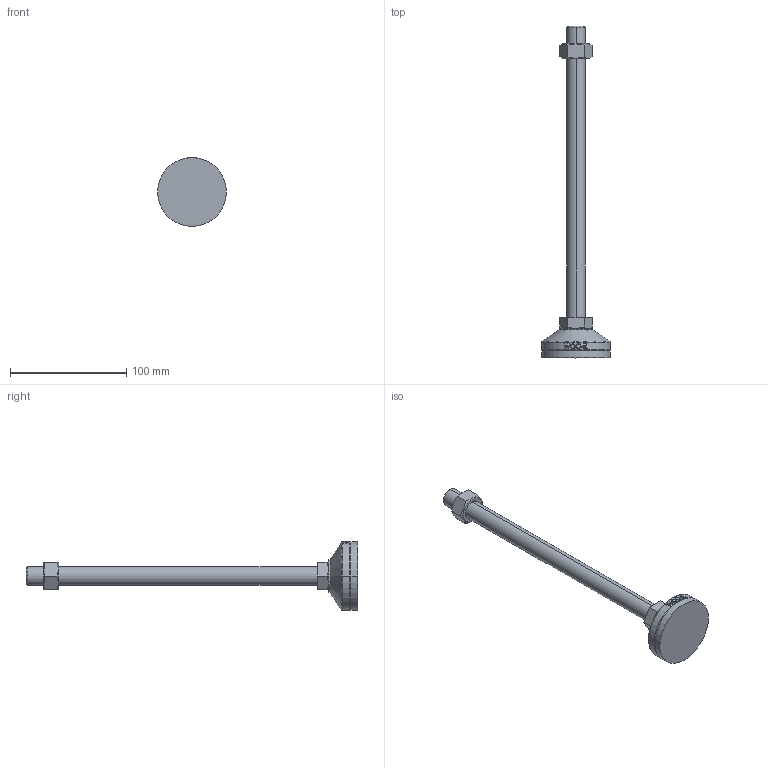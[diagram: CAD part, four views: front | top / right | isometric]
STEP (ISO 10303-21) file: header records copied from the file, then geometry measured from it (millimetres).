
FILE_DESCRIPTION (( 'STEP AP214' ), '1' );
FILE_NAME ('MFR59-M16-250.step', '2021-01-15T08:02:06', ( '' ), ( '' ), 'SwSTEP 2.0', 'SolidWorks 2019', '' );
FILE_SCHEMA (( 'AUTOMOTIVE_DESIGN' ));
Length unit declared in the file: millimetre
Products named in the file (2): MFR59-M16-250
Bounding box: 59 x 285 x 59 mm (x, y, z)
Volume: 113598.2 mm3; surface area: 30484.2 mm2
Topology: 4 solids, 4 shells, 103 faces, 235 edges, 150 vertices
Faces by surface type: plane 49, cylinder 18, bspline 16, cone 14, torus 6
Entity records: 4363 total; most frequent: CARTESIAN_POINT 2090, ORIENTED_EDGE 470, DIRECTION 417, EDGE_CURVE 235, AXIS2_PLACEMENT_3D 159, VERTEX_POINT 150, EDGE_LOOP 115, FACE_OUTER_BOUND 103
